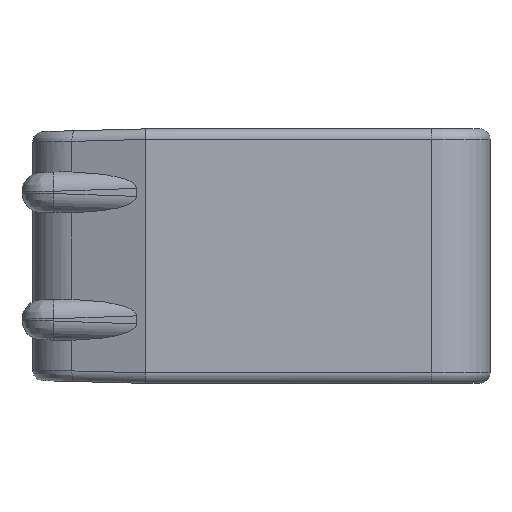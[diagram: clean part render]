
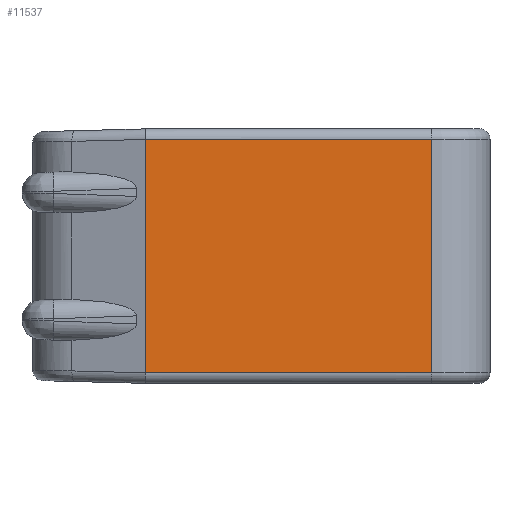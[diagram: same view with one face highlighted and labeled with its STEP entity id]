
A CAD part, left-side view. The second image highlights one B-rep face of the part: STEP entity #11537.
In plain terms, the highlighted planar face has unit normal (-1, -0.018, 0).
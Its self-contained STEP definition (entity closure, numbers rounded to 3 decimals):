
#548 = VERTEX_POINT ( 'NONE', #4407 ) ;
#1509 = CARTESIAN_POINT ( 'NONE',  ( -16.096, 0.74, -105.496 ) ) ;
#1836 = CARTESIAN_POINT ( 'NONE',  ( -16.096, 0.74, -105.996 ) ) ;
#2686 = CARTESIAN_POINT ( 'NONE',  ( -16.084, 0.03, -105.496 ) ) ;
#2827 = PLANE ( 'NONE',  #6506 ) ;
#2932 = VECTOR ( 'NONE', #4031, 1000. ) ;
#3205 = CARTESIAN_POINT ( 'NONE',  ( -16.084, 0.03, -94.504 ) ) ;
#3582 = VECTOR ( 'NONE', #7360, 1000. ) ;
#3630 = EDGE_CURVE ( 'NONE', #12517, #548, #13188, .T. ) ;
#3717 = CARTESIAN_POINT ( 'NONE',  ( -16.096, 0.74, -94.504 ) ) ;
#3734 = ORIENTED_EDGE ( 'NONE', *, *, #7469, .F. ) ;
#3863 = LINE ( 'NONE', #6062, #3582 ) ;
#4031 = DIRECTION ( 'NONE',  ( 0., 0., 1. ) ) ;
#4407 = CARTESIAN_POINT ( 'NONE',  ( -15.849, -13.449, -105.496 ) ) ;
#4559 = VECTOR ( 'NONE', #5001, 1000. ) ;
#5001 = DIRECTION ( 'NONE',  ( -0.017, 1., 0. ) ) ;
#5555 = ORIENTED_EDGE ( 'NONE', *, *, #10984, .T. ) ;
#5967 = CARTESIAN_POINT ( 'NONE',  ( -15.849, -13.449, -94.504 ) ) ;
#6062 = CARTESIAN_POINT ( 'NONE',  ( -15.849, -13.449, -105.996 ) ) ;
#6186 = VECTOR ( 'NONE', #14537, 1000. ) ;
#6461 = CARTESIAN_POINT ( 'NONE',  ( -16.084, 0.03, -100. ) ) ;
#6506 = AXIS2_PLACEMENT_3D ( 'NONE', #1836, #9867, #14364 ) ;
#7360 = DIRECTION ( 'NONE',  ( 0., 0., 1. ) ) ;
#7469 = EDGE_CURVE ( 'NONE', #12517, #12786, #7824, .T. ) ;
#7824 = LINE ( 'NONE', #6461, #2932 ) ;
#9622 = LINE ( 'NONE', #3717, #4559 ) ;
#9731 = FACE_OUTER_BOUND ( 'NONE', #12344, .T. ) ;
#9867 = DIRECTION ( 'NONE',  ( 1., 0.017, 0. ) ) ;
#10984 = EDGE_CURVE ( 'NONE', #13688, #12786, #9622, .T. ) ;
#10988 = EDGE_CURVE ( 'NONE', #548, #13688, #3863, .T. ) ;
#11537 = ADVANCED_FACE ( 'NONE', ( #9731 ), #2827, .F. ) ;
#12201 = ORIENTED_EDGE ( 'NONE', *, *, #10988, .T. ) ;
#12344 = EDGE_LOOP ( 'NONE', ( #3734, #13413, #12201, #5555 ) ) ;
#12517 = VERTEX_POINT ( 'NONE', #2686 ) ;
#12786 = VERTEX_POINT ( 'NONE', #3205 ) ;
#13188 = LINE ( 'NONE', #1509, #6186 ) ;
#13413 = ORIENTED_EDGE ( 'NONE', *, *, #3630, .T. ) ;
#13688 = VERTEX_POINT ( 'NONE', #5967 ) ;
#14364 = DIRECTION ( 'NONE',  ( 0., 0., -1. ) ) ;
#14537 = DIRECTION ( 'NONE',  ( 0.017, -1., 0. ) ) ;
